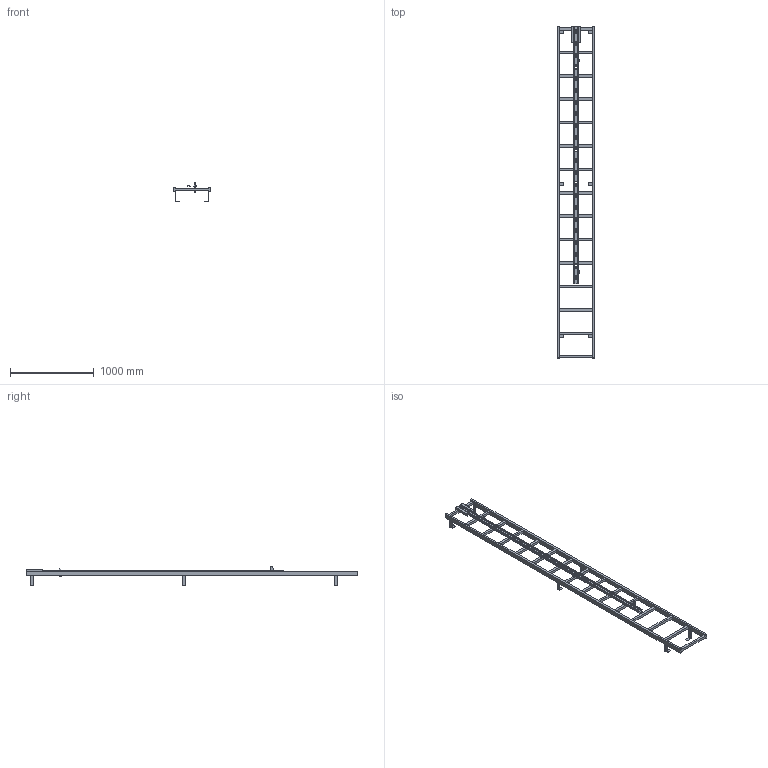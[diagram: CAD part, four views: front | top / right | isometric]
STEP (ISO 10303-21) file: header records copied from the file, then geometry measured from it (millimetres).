
FILE_DESCRIPTION((''),'2;1');
FILE_NAME('52330146','2024-12-05T08:25:47',('wep'),('HUBER SE'),'CREO PARAMETRIC BY PTC INC, 2022162','CREO PARAMETRIC BY PTC INC, 2022162','');
FILE_SCHEMA(('AUTOMOTIVE_DESIGN { 1 0 10303 214 1 1 1 1 }'));
Length unit declared in the file: millimetre
Products named in the file (1): 52330146
Bounding box: 450 x 3970 x 239 mm (x, y, z)
Volume: 17280132 mm3; surface area: 2955220.1 mm2
Topology: 2 solids, 2 shells, 256 faces, 742 edges, 486 vertices
Faces by surface type: plane 256
Entity records: 8937 total; most frequent: CARTESIAN_POINT 1486, ORIENTED_EDGE 1484, DIRECTION 1254, VECTOR 742, LINE 742, EDGE_CURVE 742, VERTEX_POINT 486, EDGE_LOOP 328
